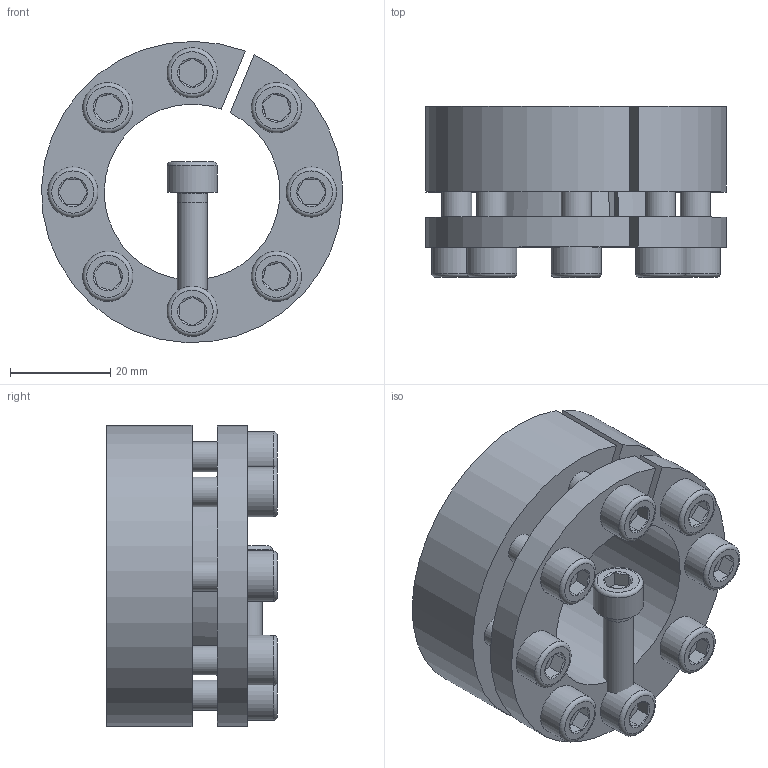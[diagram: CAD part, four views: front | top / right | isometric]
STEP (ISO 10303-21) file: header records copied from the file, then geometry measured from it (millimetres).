
FILE_DESCRIPTION( ( 'Unknown' ), '1' );
FILE_NAME( 'C:/Dokumente und Einstellungen/Sven/Desktop/homepage/cad - homepage/KBS13/KBS 13 - 35 x 60.stp', 'Unknown', ( 'Unknown' ), ( 'Unknown' ), 'XStep 1.0', 'Unknown', ' ' );
FILE_SCHEMA( ( 'automotive_design' ) );
Length unit declared in the file: millimetre
Products named in the file (3): Assem1; KBS 13 - 35 x 60; ISO EN DIN 4762 M6x20
Bounding box: 59.92 x 34 x 59.96 mm (x, y, z)
Volume: 84892.8 mm3; surface area: 42960 mm2
Topology: 11 solids, 11 shells, 281 faces, 573 edges, 350 vertices
Faces by surface type: plane 122, cylinder 74, cone 67, torus 18
Full cylindrical faces by diameter (mm): 5 x9, 6 x50, 10 x9
Entity records: 1774 total; most frequent: CARTESIAN_POINT 293, DIRECTION 272, ORIENTED_EDGE 194, AXIS2_PLACEMENT_3D 122, EDGE_LOOP 112, EDGE_CURVE 97, FACE_OUTER_BOUND 75, VERTEX_POINT 75
